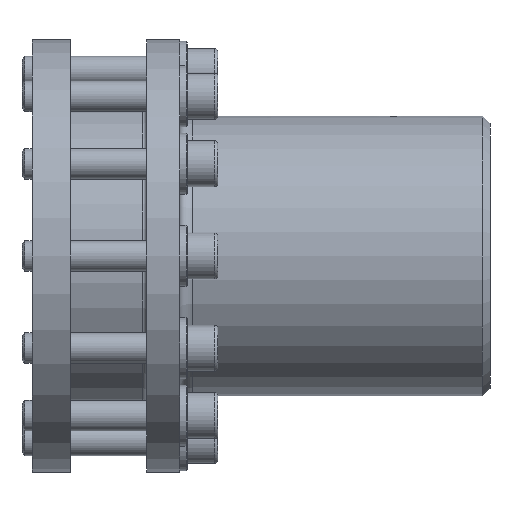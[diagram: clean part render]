
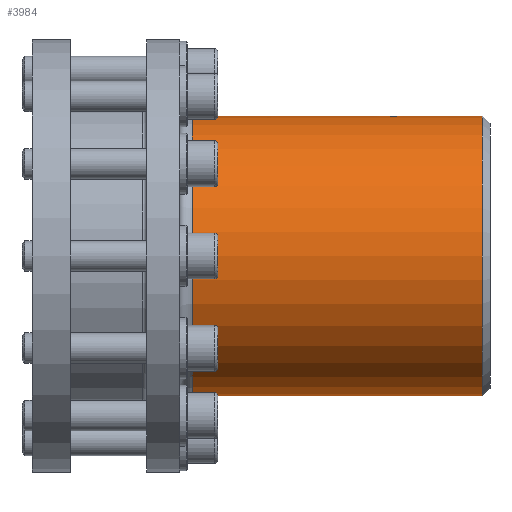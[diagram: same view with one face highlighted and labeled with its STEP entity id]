
A CAD part, front view. The second image highlights one B-rep face of the part: STEP entity #3984.
In plain terms, the highlighted cylindrical face has radius 55 mm (diameter 110 mm), a full revolution.
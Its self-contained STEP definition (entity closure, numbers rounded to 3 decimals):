
#14=B_SPLINE_CURVE_WITH_KNOTS('',3,(#6104,#6105,#6106,#6107,#6108,#6109,
#6110),.UNSPECIFIED.,.F.,.F.,(4,3,4),(1.876,1.98,
2.084),.UNSPECIFIED.);
#15=B_SPLINE_CURVE_WITH_KNOTS('',3,(#6112,#6113,#6114,#6115,#6116,#6117,
#6118,#6119,#6120,#6121),.UNSPECIFIED.,.F.,.F.,(4,2,2,2,4),(2.107,
2.129,2.254,2.379,2.504),
 .UNSPECIFIED.);
#16=B_SPLINE_CURVE_WITH_KNOTS('',3,(#6123,#6124,#6125,#6126,#6127,#6128,
#6129,#6130,#6131,#6132),.UNSPECIFIED.,.F.,.F.,(4,2,2,2,4),(0.501,
0.626,0.751,0.877,0.898),
 .UNSPECIFIED.);
#17=B_SPLINE_CURVE_WITH_KNOTS('',3,(#6134,#6135,#6136,#6137,#6138,#6139),
 .UNSPECIFIED.,.F.,.F.,(4,2,4),(0.886,0.99,1.094),
 .UNSPECIFIED.);
#18=B_SPLINE_CURVE_WITH_KNOTS('',3,(#6141,#6142,#6143,#6144,#6145,#6146,
#6147,#6148,#6149,#6150),.UNSPECIFIED.,.F.,.F.,(4,2,2,2,4),(1.105,
1.127,1.252,1.377,1.503),
 .UNSPECIFIED.);
#19=B_SPLINE_CURVE_WITH_KNOTS('',3,(#6151,#6152,#6153,#6154,#6155,#6156,
#6157,#6158,#6159,#6160),.UNSPECIFIED.,.F.,.F.,(4,2,2,2,4),(1.503,
1.628,1.753,1.878,1.9),
 .UNSPECIFIED.);
#466=CYLINDRICAL_SURFACE('',#4308,55.);
#614=FACE_BOUND('',#1170,.T.);
#615=FACE_BOUND('',#1171,.T.);
#853=FACE_OUTER_BOUND('',#1169,.T.);
#1169=EDGE_LOOP('',(#2767));
#1170=EDGE_LOOP('',(#2768));
#1171=EDGE_LOOP('',(#2769,#2770,#2771,#2772,#2773,#2774));
#1616=CIRCLE('',#4309,55.);
#1617=CIRCLE('',#4310,55.);
#1852=VERTEX_POINT('',#6098);
#1853=VERTEX_POINT('',#6100);
#1854=VERTEX_POINT('',#6102);
#1855=VERTEX_POINT('',#6103);
#1856=VERTEX_POINT('',#6111);
#1857=VERTEX_POINT('',#6122);
#1858=VERTEX_POINT('',#6133);
#1859=VERTEX_POINT('',#6140);
#2232=EDGE_CURVE('',#1852,#1852,#1616,.T.);
#2233=EDGE_CURVE('',#1853,#1853,#1617,.T.);
#2234=EDGE_CURVE('',#1854,#1855,#14,.T.);
#2235=EDGE_CURVE('',#1854,#1856,#15,.T.);
#2236=EDGE_CURVE('',#1856,#1857,#16,.T.);
#2237=EDGE_CURVE('',#1858,#1857,#17,.T.);
#2238=EDGE_CURVE('',#1858,#1859,#18,.T.);
#2239=EDGE_CURVE('',#1859,#1855,#19,.T.);
#2767=ORIENTED_EDGE('',*,*,#2232,.F.);
#2768=ORIENTED_EDGE('',*,*,#2233,.F.);
#2769=ORIENTED_EDGE('',*,*,#2234,.F.);
#2770=ORIENTED_EDGE('',*,*,#2235,.T.);
#2771=ORIENTED_EDGE('',*,*,#2236,.T.);
#2772=ORIENTED_EDGE('',*,*,#2237,.F.);
#2773=ORIENTED_EDGE('',*,*,#2238,.T.);
#2774=ORIENTED_EDGE('',*,*,#2239,.T.);
#3984=ADVANCED_FACE('',(#853,#614,#615),#466,.T.);
#4308=AXIS2_PLACEMENT_3D('',#6097,#4925,#4926);
#4309=AXIS2_PLACEMENT_3D('',#6099,#4927,#4928);
#4310=AXIS2_PLACEMENT_3D('',#6101,#4929,#4930);
#4925=DIRECTION('center_axis',(1.,0.,0.));
#4926=DIRECTION('ref_axis',(0.,1.,0.));
#4927=DIRECTION('center_axis',(-1.,0.,0.));
#4928=DIRECTION('ref_axis',(0.,-1.,0.));
#4929=DIRECTION('center_axis',(1.,0.,0.));
#4930=DIRECTION('ref_axis',(0.,-1.,0.));
#6097=CARTESIAN_POINT('Origin',(22.25,0.,0.));
#6098=CARTESIAN_POINT('',(-33.75,55.,0.));
#6099=CARTESIAN_POINT('Origin',(-33.75,0.,0.));
#6100=CARTESIAN_POINT('',(80.25,55.,0.));
#6101=CARTESIAN_POINT('Origin',(80.25,0.,0.));
#6102=CARTESIAN_POINT('',(44.192,-3.151,54.91));
#6103=CARTESIAN_POINT('',(46.308,-3.151,54.91));
#6104=CARTESIAN_POINT('Ctrl Pts',(44.192,-3.151,54.91));
#6105=CARTESIAN_POINT('Ctrl Pts',(44.538,-3.274,54.903));
#6106=CARTESIAN_POINT('Ctrl Pts',(44.903,-3.334,54.899));
#6107=CARTESIAN_POINT('Ctrl Pts',(45.25,-3.334,54.899));
#6108=CARTESIAN_POINT('Ctrl Pts',(45.597,-3.334,54.899));
#6109=CARTESIAN_POINT('Ctrl Pts',(45.962,-3.274,54.903));
#6110=CARTESIAN_POINT('Ctrl Pts',(46.308,-3.151,54.91));
#6111=CARTESIAN_POINT('',(41.927,0.,55.));
#6112=CARTESIAN_POINT('Ctrl Pts',(44.192,-3.151,54.91));
#6113=CARTESIAN_POINT('Ctrl Pts',(44.12,-3.126,54.911));
#6114=CARTESIAN_POINT('Ctrl Pts',(44.048,-3.1,54.913));
#6115=CARTESIAN_POINT('Ctrl Pts',(43.569,-2.901,54.924));
#6116=CARTESIAN_POINT('Ctrl Pts',(43.195,-2.645,54.937));
#6117=CARTESIAN_POINT('Ctrl Pts',(42.605,-2.055,54.962));
#6118=CARTESIAN_POINT('Ctrl Pts',(42.349,-1.681,54.976));
#6119=CARTESIAN_POINT('Ctrl Pts',(42.01,-0.863,54.995));
#6120=CARTESIAN_POINT('Ctrl Pts',(41.927,-0.417,55.));
#6121=CARTESIAN_POINT('Ctrl Pts',(41.927,0.,55.));
#6122=CARTESIAN_POINT('',(44.192,3.151,54.91));
#6123=CARTESIAN_POINT('Ctrl Pts',(41.927,0.,55.));
#6124=CARTESIAN_POINT('Ctrl Pts',(41.927,0.417,55.));
#6125=CARTESIAN_POINT('Ctrl Pts',(42.01,0.863,54.995));
#6126=CARTESIAN_POINT('Ctrl Pts',(42.349,1.681,54.976));
#6127=CARTESIAN_POINT('Ctrl Pts',(42.605,2.055,54.962));
#6128=CARTESIAN_POINT('Ctrl Pts',(43.195,2.645,54.937));
#6129=CARTESIAN_POINT('Ctrl Pts',(43.569,2.901,54.924));
#6130=CARTESIAN_POINT('Ctrl Pts',(44.048,3.1,54.913));
#6131=CARTESIAN_POINT('Ctrl Pts',(44.12,3.126,54.911));
#6132=CARTESIAN_POINT('Ctrl Pts',(44.192,3.151,54.91));
#6133=CARTESIAN_POINT('',(46.308,3.151,54.91));
#6134=CARTESIAN_POINT('Ctrl Pts',(46.308,3.151,54.91));
#6135=CARTESIAN_POINT('Ctrl Pts',(45.962,3.274,54.903));
#6136=CARTESIAN_POINT('Ctrl Pts',(45.597,3.334,54.899));
#6137=CARTESIAN_POINT('Ctrl Pts',(44.903,3.334,54.899));
#6138=CARTESIAN_POINT('Ctrl Pts',(44.538,3.274,54.903));
#6139=CARTESIAN_POINT('Ctrl Pts',(44.192,3.151,54.91));
#6140=CARTESIAN_POINT('',(48.574,0.,55.));
#6141=CARTESIAN_POINT('Ctrl Pts',(46.308,3.151,54.91));
#6142=CARTESIAN_POINT('Ctrl Pts',(46.38,3.126,54.911));
#6143=CARTESIAN_POINT('Ctrl Pts',(46.452,3.1,54.913));
#6144=CARTESIAN_POINT('Ctrl Pts',(46.931,2.901,54.924));
#6145=CARTESIAN_POINT('Ctrl Pts',(47.305,2.645,54.937));
#6146=CARTESIAN_POINT('Ctrl Pts',(47.895,2.055,54.962));
#6147=CARTESIAN_POINT('Ctrl Pts',(48.151,1.681,54.976));
#6148=CARTESIAN_POINT('Ctrl Pts',(48.49,0.863,54.995));
#6149=CARTESIAN_POINT('Ctrl Pts',(48.574,0.417,55.));
#6150=CARTESIAN_POINT('Ctrl Pts',(48.574,0.,55.));
#6151=CARTESIAN_POINT('Ctrl Pts',(48.574,0.,55.));
#6152=CARTESIAN_POINT('Ctrl Pts',(48.574,-0.417,55.));
#6153=CARTESIAN_POINT('Ctrl Pts',(48.49,-0.863,54.995));
#6154=CARTESIAN_POINT('Ctrl Pts',(48.151,-1.681,54.976));
#6155=CARTESIAN_POINT('Ctrl Pts',(47.895,-2.055,54.962));
#6156=CARTESIAN_POINT('Ctrl Pts',(47.305,-2.645,54.937));
#6157=CARTESIAN_POINT('Ctrl Pts',(46.931,-2.901,54.924));
#6158=CARTESIAN_POINT('Ctrl Pts',(46.452,-3.1,54.913));
#6159=CARTESIAN_POINT('Ctrl Pts',(46.38,-3.126,54.911));
#6160=CARTESIAN_POINT('Ctrl Pts',(46.308,-3.151,54.91));
